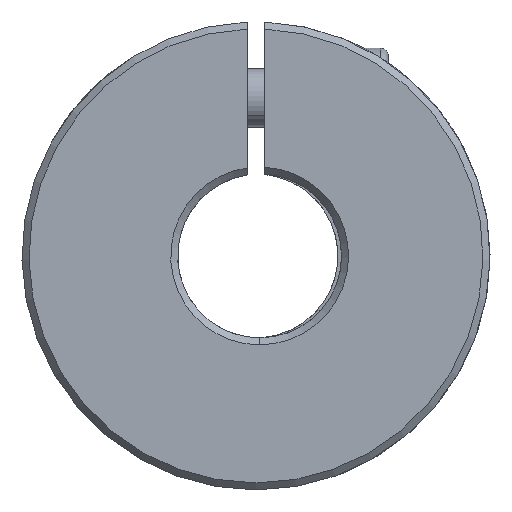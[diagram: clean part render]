
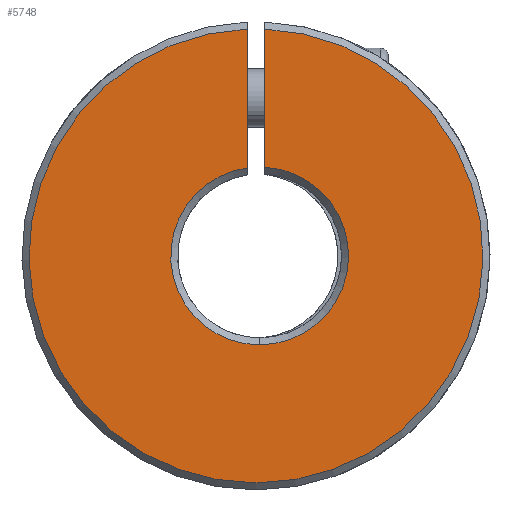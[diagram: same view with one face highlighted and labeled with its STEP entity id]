
A CAD part, front view. The second image highlights one B-rep face of the part: STEP entity #5748.
In plain terms, the highlighted planar face has unit normal (0, -1, 0).
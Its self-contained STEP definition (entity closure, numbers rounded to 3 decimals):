
#56 = CARTESIAN_POINT ( 'NONE',  ( 0.314, -30., 0. ) ) ;
#105 = DIRECTION ( 'NONE',  ( 0., 0., 1. ) ) ;
#282 = CARTESIAN_POINT ( 'NONE',  ( -0.75, -30., 7.525 ) ) ;
#353 = EDGE_CURVE ( 'NONE', #1692, #4864, #1875, .T. ) ;
#442 = CARTESIAN_POINT ( 'NONE',  ( 0.314, -30., -7.6 ) ) ;
#475 = DIRECTION ( 'NONE',  ( 0., 1., 0. ) ) ;
#507 = FACE_OUTER_BOUND ( 'NONE', #4469, .T. ) ;
#676 = ORIENTED_EDGE ( 'NONE', *, *, #773, .T. ) ;
#751 = CARTESIAN_POINT ( 'NONE',  ( -0.75, -30., 19.385 ) ) ;
#773 = EDGE_CURVE ( 'NONE', #4864, #1763, #2859, .T. ) ;
#905 = ORIENTED_EDGE ( 'NONE', *, *, #2177, .T. ) ;
#907 = CARTESIAN_POINT ( 'NONE',  ( 0., -30., 0. ) ) ;
#908 = VECTOR ( 'NONE', #3293, 1000. ) ;
#933 = PLANE ( 'NONE',  #2353 ) ;
#1120 = EDGE_CURVE ( 'NONE', #3484, #1692, #4266, .T. ) ;
#1225 = DIRECTION ( 'NONE',  ( 0., -1., 0. ) ) ;
#1404 = CARTESIAN_POINT ( 'NONE',  ( 0.75, -30., 7.587 ) ) ;
#1434 = DIRECTION ( 'NONE',  ( 0., 0., 1. ) ) ;
#1692 = VERTEX_POINT ( 'NONE', #282 ) ;
#1763 = VERTEX_POINT ( 'NONE', #4590 ) ;
#1768 = CIRCLE ( 'NONE', #4225, 7.6 ) ;
#1875 = LINE ( 'NONE', #3223, #3529 ) ;
#2015 = AXIS2_PLACEMENT_3D ( 'NONE', #5251, #1225, #4348 ) ;
#2161 = EDGE_CURVE ( 'NONE', #1763, #2192, #3704, .T. ) ;
#2177 = EDGE_CURVE ( 'NONE', #2192, #3484, #1768, .T. ) ;
#2180 = ORIENTED_EDGE ( 'NONE', *, *, #353, .T. ) ;
#2192 = VERTEX_POINT ( 'NONE', #1404 ) ;
#2353 = AXIS2_PLACEMENT_3D ( 'NONE', #907, #475, #5813 ) ;
#2374 = CARTESIAN_POINT ( 'NONE',  ( 0.314, -30., 0. ) ) ;
#2798 = DIRECTION ( 'NONE',  ( 0., 1., 0. ) ) ;
#2859 = CIRCLE ( 'NONE', #2015, 19.4 ) ;
#3223 = CARTESIAN_POINT ( 'NONE',  ( -0.75, -30., -6. ) ) ;
#3293 = DIRECTION ( 'NONE',  ( 0., 0., -1. ) ) ;
#3484 = VERTEX_POINT ( 'NONE', #442 ) ;
#3529 = VECTOR ( 'NONE', #105, 1000. ) ;
#3587 = AXIS2_PLACEMENT_3D ( 'NONE', #56, #2798, #5013 ) ;
#3704 = LINE ( 'NONE', #5480, #908 ) ;
#3814 = ORIENTED_EDGE ( 'NONE', *, *, #2161, .T. ) ;
#4103 = DIRECTION ( 'NONE',  ( 0., 1., 0. ) ) ;
#4225 = AXIS2_PLACEMENT_3D ( 'NONE', #2374, #4103, #1434 ) ;
#4266 = CIRCLE ( 'NONE', #3587, 7.6 ) ;
#4348 = DIRECTION ( 'NONE',  ( 0., 0., 1. ) ) ;
#4469 = EDGE_LOOP ( 'NONE', ( #3814, #905, #5403, #2180, #676 ) ) ;
#4590 = CARTESIAN_POINT ( 'NONE',  ( 0.75, -30., 19.385 ) ) ;
#4864 = VERTEX_POINT ( 'NONE', #751 ) ;
#5013 = DIRECTION ( 'NONE',  ( 0., 0., 1. ) ) ;
#5251 = CARTESIAN_POINT ( 'NONE',  ( 0., -30., 0. ) ) ;
#5403 = ORIENTED_EDGE ( 'NONE', *, *, #1120, .T. ) ;
#5480 = CARTESIAN_POINT ( 'NONE',  ( 0.75, -30., -6. ) ) ;
#5748 = ADVANCED_FACE ( 'NONE', ( #507 ), #933, .F. ) ;
#5813 = DIRECTION ( 'NONE',  ( 0., 0., 1. ) ) ;
